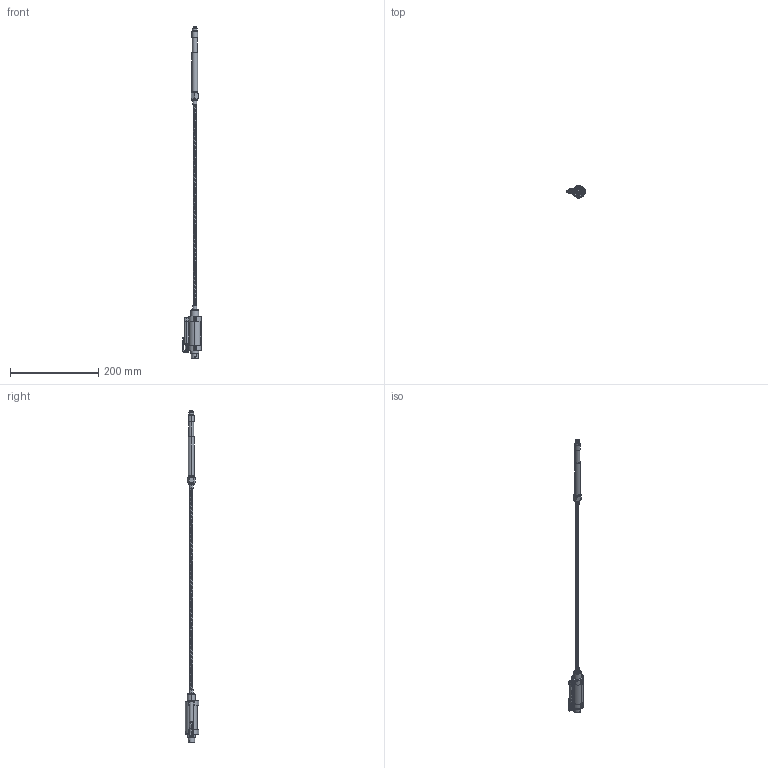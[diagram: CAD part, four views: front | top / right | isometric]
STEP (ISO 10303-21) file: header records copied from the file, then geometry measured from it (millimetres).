
FILE_DESCRIPTION (( 'STEP AP203' ), '1' );
FILE_NAME ('MN1.STEP', '2010-07-30T09:54:28', ( 'User' ), ( 'Gefran S.p.a.' ), 'SwSTEP 2.0', 'SolidWorks 2010', '' );
FILE_SCHEMA (( 'CONFIG_CONTROL_DESIGN' ));
Length unit declared in the file: millimetre
Products named in the file (13): STE801x_Revisione 1; MN1; NIP200x; NIP202x; PKIT311x; MGN005x; CUS360x_Crimpata; PKIT309x; MEM902x; FLX007x; CON301x; TAP101x; PKIT310x
Assembly tree (12 placements, depth 2):
  MN1
    STE801x_Revisione 1
    PKIT310x
    PKIT311x
    PKIT309x
    NIP202x
    TAP101x
    FLX007x
    CON301x
    CUS360x_Crimpata
    MEM902x
    MGN005x
    NIP200x
Bounding box: 41.97 x 29.75 x 753.97 mm (x, y, z)
Volume: 54379.8 mm3; surface area: 58201.4 mm2
Topology: 12 solids, 12 shells, 2071 faces, 5054 edges, 2970 vertices
Faces by surface type: bspline 891, cylinder 672, plane 400, cone 68, torus 40
Entity records: 90284 total; most frequent: CARTESIAN_POINT 48350, ORIENTED_EDGE 9906, DIRECTION 6669, EDGE_CURVE 4953, VERTEX_POINT 2970, AXIS2_PLACEMENT_3D 2595, EDGE_LOOP 2149, FACE_OUTER_BOUND 2071
